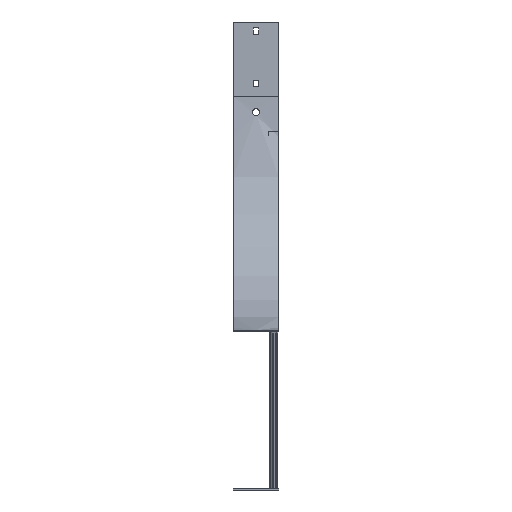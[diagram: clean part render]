
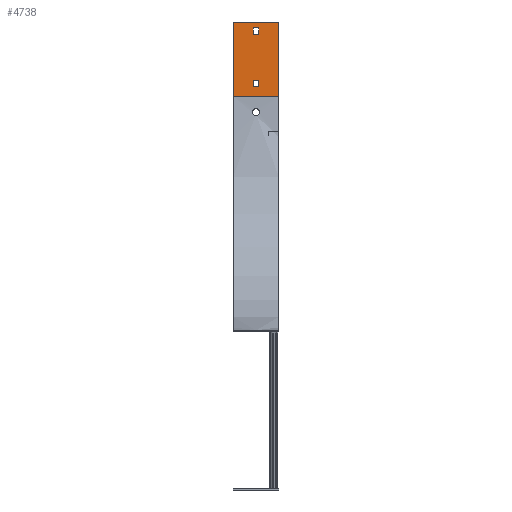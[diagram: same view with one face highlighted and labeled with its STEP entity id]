
A CAD part, left-side view. The second image highlights one B-rep face of the part: STEP entity #4738.
In plain terms, the highlighted planar face has unit normal (-1, 0, 0) as drawn and (1, 0, 0) by its records, which use the part's own axes.
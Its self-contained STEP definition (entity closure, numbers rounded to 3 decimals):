
#17 = CARTESIAN_POINT ( 'NONE',  ( -448., 49., -118.5 ) ) ;
#198 = VERTEX_POINT ( 'NONE', #3800 ) ;
#267 = ORIENTED_EDGE ( 'NONE', *, *, #5751, .F. ) ;
#366 = AXIS2_PLACEMENT_3D ( 'NONE', #2448, #1581, #661 ) ;
#397 = VERTEX_POINT ( 'NONE', #2547 ) ;
#404 = LINE ( 'NONE', #17, #3128 ) ;
#461 = LINE ( 'NONE', #2337, #3390 ) ;
#568 = EDGE_LOOP ( 'NONE', ( #2596, #4594, #1867, #2674 ) ) ;
#596 = CARTESIAN_POINT ( 'NONE',  ( -448., 49., -131.5 ) ) ;
#661 = DIRECTION ( 'NONE',  ( 0., 0., -1. ) ) ;
#858 = DIRECTION ( 'NONE',  ( 0., 0., 1. ) ) ;
#881 = VECTOR ( 'NONE', #882, 1000. ) ;
#882 = DIRECTION ( 'NONE',  ( 0., 1., 0. ) ) ;
#1004 = VERTEX_POINT ( 'NONE', #596 ) ;
#1068 = FACE_BOUND ( 'NONE', #4866, .T. ) ;
#1129 = CARTESIAN_POINT ( 'NONE',  ( -448., 87., -142.5 ) ) ;
#1251 = LINE ( 'NONE', #4500, #2943 ) ;
#1501 = CARTESIAN_POINT ( 'NONE',  ( -448., 87., 0. ) ) ;
#1546 = LINE ( 'NONE', #2405, #5916 ) ;
#1581 = DIRECTION ( 'NONE',  ( 1., 0., 0. ) ) ;
#1591 = LINE ( 'NONE', #3404, #1618 ) ;
#1618 = VECTOR ( 'NONE', #5390, 1000. ) ;
#1631 = ORIENTED_EDGE ( 'NONE', *, *, #6049, .T. ) ;
#1787 = EDGE_CURVE ( 'NONE', #2088, #397, #4203, .T. ) ;
#1867 = ORIENTED_EDGE ( 'NONE', *, *, #3129, .F. ) ;
#1898 = VERTEX_POINT ( 'NONE', #2724 ) ;
#1955 = VERTEX_POINT ( 'NONE', #1501 ) ;
#2014 = VERTEX_POINT ( 'NONE', #1129 ) ;
#2050 = EDGE_CURVE ( 'NONE', #1004, #2984, #1251, .T. ) ;
#2088 = VERTEX_POINT ( 'NONE', #4012 ) ;
#2251 = CARTESIAN_POINT ( 'NONE',  ( -448., 38., -18.5 ) ) ;
#2306 = CARTESIAN_POINT ( 'NONE',  ( -448., 87., 0. ) ) ;
#2307 = VERTEX_POINT ( 'NONE', #3997 ) ;
#2315 = ORIENTED_EDGE ( 'NONE', *, *, #3770, .F. ) ;
#2316 = VECTOR ( 'NONE', #4663, 1000. ) ;
#2334 = EDGE_CURVE ( 'NONE', #1898, #3621, #6009, .T. ) ;
#2337 = CARTESIAN_POINT ( 'NONE',  ( -448., 49., -18.5 ) ) ;
#2346 = EDGE_CURVE ( 'NONE', #397, #1898, #461, .T. ) ;
#2396 = DIRECTION ( 'NONE',  ( 0., 0., 1. ) ) ;
#2405 = CARTESIAN_POINT ( 'NONE',  ( -448., 49., -131.5 ) ) ;
#2448 = CARTESIAN_POINT ( 'NONE',  ( -448., 87., 0. ) ) ;
#2517 = CARTESIAN_POINT ( 'NONE',  ( -448., 87., 0. ) ) ;
#2538 = FACE_OUTER_BOUND ( 'NONE', #4828, .T. ) ;
#2547 = CARTESIAN_POINT ( 'NONE',  ( -448., 49., -18.5 ) ) ;
#2571 = CARTESIAN_POINT ( 'NONE',  ( -448., 49., -118.5 ) ) ;
#2584 = CARTESIAN_POINT ( 'NONE',  ( -448., 38., -118.5 ) ) ;
#2593 = CARTESIAN_POINT ( 'NONE',  ( -448., 38., -31.5 ) ) ;
#2596 = ORIENTED_EDGE ( 'NONE', *, *, #2346, .F. ) ;
#2610 = LINE ( 'NONE', #4971, #3222 ) ;
#2640 = DIRECTION ( 'NONE',  ( 0., 0., 1. ) ) ;
#2674 = ORIENTED_EDGE ( 'NONE', *, *, #2334, .F. ) ;
#2724 = CARTESIAN_POINT ( 'NONE',  ( -448., 38., -18.5 ) ) ;
#2745 = CARTESIAN_POINT ( 'NONE',  ( -448., 38., -131.5 ) ) ;
#2765 = EDGE_CURVE ( 'NONE', #198, #2307, #2610, .T. ) ;
#2857 = VECTOR ( 'NONE', #4240, 1000. ) ;
#2859 = DIRECTION ( 'NONE',  ( 0., 1., 0. ) ) ;
#2943 = VECTOR ( 'NONE', #3582, 1000. ) ;
#2984 = VERTEX_POINT ( 'NONE', #2571 ) ;
#3128 = VECTOR ( 'NONE', #3321, 1000. ) ;
#3129 = EDGE_CURVE ( 'NONE', #3621, #2088, #4073, .T. ) ;
#3152 = VECTOR ( 'NONE', #3995, 1000. ) ;
#3176 = CARTESIAN_POINT ( 'NONE',  ( -448., 49., -31.5 ) ) ;
#3222 = VECTOR ( 'NONE', #2640, 1000. ) ;
#3321 = DIRECTION ( 'NONE',  ( 0., -1., 0. ) ) ;
#3390 = VECTOR ( 'NONE', #5033, 1000. ) ;
#3404 = CARTESIAN_POINT ( 'NONE',  ( -448., 87., -142.5 ) ) ;
#3499 = LINE ( 'NONE', #2584, #3152 ) ;
#3582 = DIRECTION ( 'NONE',  ( 0., 0., 1. ) ) ;
#3621 = VERTEX_POINT ( 'NONE', #2593 ) ;
#3707 = CARTESIAN_POINT ( 'NONE',  ( -448., 49., -18.5 ) ) ;
#3770 = EDGE_CURVE ( 'NONE', #4998, #1004, #1546, .T. ) ;
#3800 = CARTESIAN_POINT ( 'NONE',  ( -448., 0., -142.5 ) ) ;
#3912 = PLANE ( 'NONE',  #366 ) ;
#3945 = ORIENTED_EDGE ( 'NONE', *, *, #4234, .F. ) ;
#3995 = DIRECTION ( 'NONE',  ( 0., 0., -1. ) ) ;
#3997 = CARTESIAN_POINT ( 'NONE',  ( -448., 0., 0. ) ) ;
#4012 = CARTESIAN_POINT ( 'NONE',  ( -448., 49., -31.5 ) ) ;
#4073 = LINE ( 'NONE', #3176, #881 ) ;
#4203 = LINE ( 'NONE', #3707, #4910 ) ;
#4234 = EDGE_CURVE ( 'NONE', #2014, #198, #1591, .T. ) ;
#4240 = DIRECTION ( 'NONE',  ( 0., -1., 0. ) ) ;
#4433 = VECTOR ( 'NONE', #2396, 1000. ) ;
#4500 = CARTESIAN_POINT ( 'NONE',  ( -448., 49., -118.5 ) ) ;
#4594 = ORIENTED_EDGE ( 'NONE', *, *, #1787, .F. ) ;
#4663 = DIRECTION ( 'NONE',  ( 0., 0., -1. ) ) ;
#4735 = CARTESIAN_POINT ( 'NONE',  ( -448., 38., -118.5 ) ) ;
#4738 = ADVANCED_FACE ( 'NONE', ( #1068, #4865, #2538 ), #3912, .T. ) ;
#4807 = ORIENTED_EDGE ( 'NONE', *, *, #2050, .F. ) ;
#4810 = ORIENTED_EDGE ( 'NONE', *, *, #5414, .F. ) ;
#4828 = EDGE_LOOP ( 'NONE', ( #4958, #3945, #1631, #5247 ) ) ;
#4865 = FACE_BOUND ( 'NONE', #568, .T. ) ;
#4866 = EDGE_LOOP ( 'NONE', ( #4810, #4807, #2315, #267 ) ) ;
#4910 = VECTOR ( 'NONE', #858, 1000. ) ;
#4912 = VERTEX_POINT ( 'NONE', #4735 ) ;
#4958 = ORIENTED_EDGE ( 'NONE', *, *, #2765, .F. ) ;
#4971 = CARTESIAN_POINT ( 'NONE',  ( -448., 0., 0. ) ) ;
#4998 = VERTEX_POINT ( 'NONE', #2745 ) ;
#5033 = DIRECTION ( 'NONE',  ( 0., -1., 0. ) ) ;
#5247 = ORIENTED_EDGE ( 'NONE', *, *, #5973, .T. ) ;
#5302 = LINE ( 'NONE', #2517, #4433 ) ;
#5390 = DIRECTION ( 'NONE',  ( 0., -1., 0. ) ) ;
#5414 = EDGE_CURVE ( 'NONE', #2984, #4912, #404, .T. ) ;
#5751 = EDGE_CURVE ( 'NONE', #4912, #4998, #3499, .T. ) ;
#5916 = VECTOR ( 'NONE', #2859, 1000. ) ;
#5973 = EDGE_CURVE ( 'NONE', #1955, #2307, #6007, .T. ) ;
#6007 = LINE ( 'NONE', #2306, #2857 ) ;
#6009 = LINE ( 'NONE', #2251, #2316 ) ;
#6049 = EDGE_CURVE ( 'NONE', #2014, #1955, #5302, .T. ) ;
